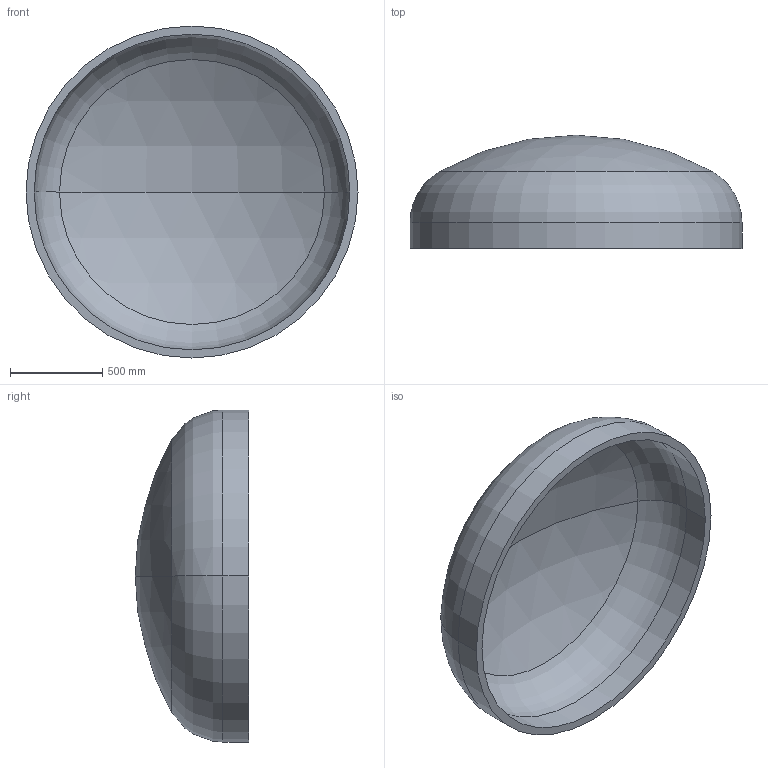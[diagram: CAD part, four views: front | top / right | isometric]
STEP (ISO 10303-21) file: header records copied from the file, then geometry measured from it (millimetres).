
FILE_DESCRIPTION (( 'STEP AP203' ), '1' );
FILE_NAME ('DIN 28013 Korbbogenform_-_Boden DIN 28013 - 1800 x 140 - I - s=44.step', '2016-07-01T12:31:24', ( '' ), ( '' ), 'SwSTEP 2.0', 'SolidWorks 2013', '' );
FILE_SCHEMA (( 'CONFIG_CONTROL_DESIGN' ));
Length unit declared in the file: millimetre
Products named in the file (1): DIN 28013 Korbbogenform_-_Boden DIN 28013 - 1800 x 140 - I - s=44
Bounding box: 1800 x 614.22 x 1800 mm (x, y, z)
Volume: 183921334 mm3; surface area: 8606844.9 mm2
Topology: 1 solids, 1 shells, 13 faces, 24 edges, 14 vertices
Faces by surface type: torus 4, cylinder 4, sphere 4, plane 1
Entity records: 407 total; most frequent: DIRECTION 72, CARTESIAN_POINT 52, ORIENTED_EDGE 48, AXIS2_PLACEMENT_3D 34, EDGE_CURVE 24, CIRCLE 20, VERTEX_POINT 14, EDGE_LOOP 14
